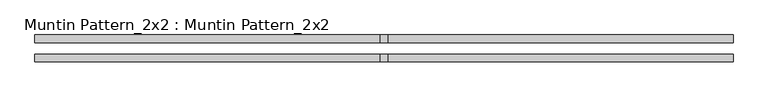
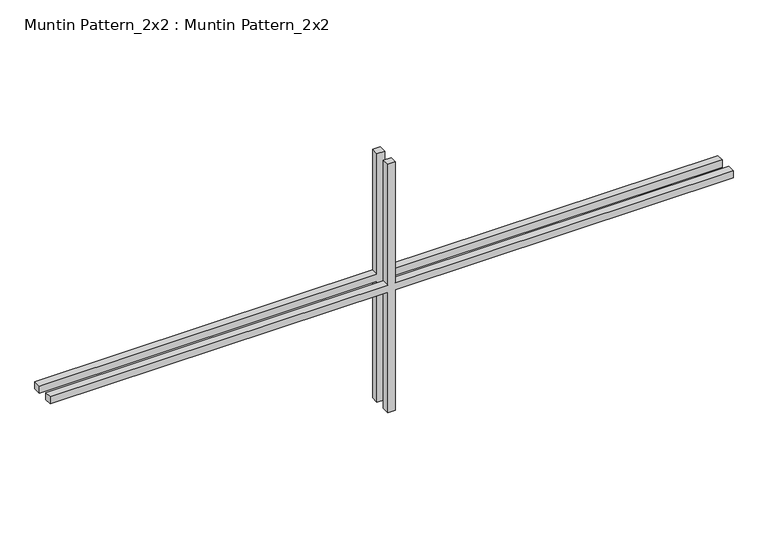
"""IFC4 building model written with IfcOpenShell, lengths in millimetres: proxy geometry, Muntin Pattern_2x2 : Muntin Pattern_2x2."""

from ifc_helpers import new_model, si_unit, frame, origin, place, context, project, spatial, polyline, outline, extrude, source, transform, mapped, element, save


def muntin_pattern_2x2_muntin_pattern_2x2_6d229202(model_context):
    return source(origin(), model_context, "Body", "SweptSolid", [
        extrude(outline(polyline([(228.6, -6.35), (228.6, -577.85), (215.9, -577.85), (215.9, -6.35), (0.0, -6.35), (0.0, 6.35), (215.9, 6.35), (215.9, 577.85), (228.6, 577.85), (228.6, 6.35), (444.5, 6.35), (444.5, -6.35), (228.6, -6.35)])), frame((0.0, 9.525, 0.0), z_axis=(0.0, 1.0, 0.0), x_axis=(0.0, 0.0, 1.0)), (0.0, 0.0, 1.0), 12.7),
        extrude(outline(polyline([(228.6, -6.35), (228.6, -577.85), (215.9, -577.85), (215.9, -6.35), (0.0, -6.35), (0.0, 6.35), (215.9, 6.35), (215.9, 577.85), (228.6, 577.85), (228.6, 6.35), (444.5, 6.35), (444.5, -6.35), (228.6, -6.35)])), frame((0.0, -22.225, 0.0), z_axis=(0.0, 1.0, 0.0), x_axis=(0.0, 0.0, 1.0)), (0.0, 0.0, 1.0), 12.7),
    ])


if __name__ == "__main__":
    model = new_model("IFC4")
    model_context = context("Model", 3, world=origin())
    ifc_project = project(units=[si_unit("LENGTHUNIT", "METRE", prefix="MILLI")], contexts=[model_context])
    site = spatial("IfcSite", under=ifc_project)
    building = spatial("IfcBuilding", under=site)
    placement = place(None, origin())
    muntin_pattern_2x2_muntin_pattern_2x2_shape = muntin_pattern_2x2_muntin_pattern_2x2_6d229202(model_context)
    element("IfcBuildingElementProxy", 1, Name="Muntin Pattern_2x2 : Muntin Pattern_2x2", ObjectType="Muntin Pattern_2x2 : Muntin Pattern_2x2", at=placement, inside=building, context=model_context, shape_type="MappedRepresentation", body=[
        mapped(muntin_pattern_2x2_muntin_pattern_2x2_shape, transform((0.0, 0.0, 0.0), x_axis=(1.0, 0.0, 0.0), y_axis=(0.0, 1.0, 0.0), z_axis=(0.0, 0.0, 1.0))),
    ])
    save(model, "model.ifc")
